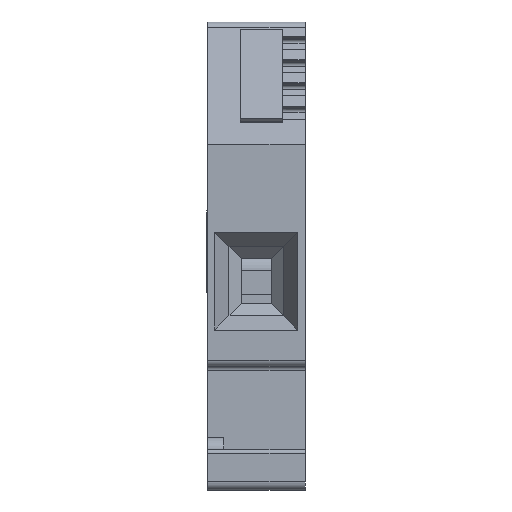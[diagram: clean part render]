
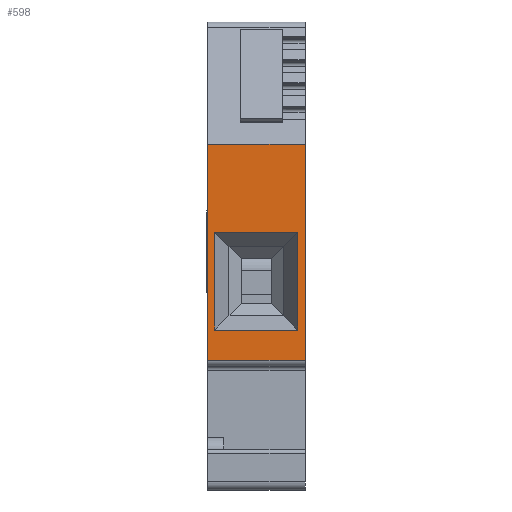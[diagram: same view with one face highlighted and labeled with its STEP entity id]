
A CAD part, front view. The second image highlights one B-rep face of the part: STEP entity #598.
In plain terms, the highlighted planar face has unit normal (0, -1, 0).
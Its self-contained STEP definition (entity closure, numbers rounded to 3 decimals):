
#598=ADVANCED_FACE('',(#15983,#15985),#15987,.T.);
#15983=FACE_BOUND('',#15984,.T.);
#15984=EDGE_LOOP('',(#28390,#28391,#28392,#28393));
#15985=FACE_BOUND('',#15986,.T.);
#15986=EDGE_LOOP('',(#28394,#28395,#28396,#28397));
#15987=PLANE('',#15988);
#15988=AXIS2_PLACEMENT_3D('',#15989,#15990,#15991);
#15989=CARTESIAN_POINT('',(0.,-23.,42.5));
#15990=DIRECTION('',(0.,-1.,0.));
#15991=DIRECTION('',(0.,0.,-1.));
#28390=ORIENTED_EDGE('',*,*,#37829,.T.);
#28391=ORIENTED_EDGE('',*,*,#37955,.T.);
#28392=ORIENTED_EDGE('',*,*,#37493,.F.);
#28393=ORIENTED_EDGE('',*,*,#37952,.F.);
#28394=ORIENTED_EDGE('',*,*,#37956,.T.);
#28395=ORIENTED_EDGE('',*,*,#37957,.T.);
#28396=ORIENTED_EDGE('',*,*,#37958,.T.);
#28397=ORIENTED_EDGE('',*,*,#37959,.T.);
#37493=EDGE_CURVE('',#42409,#42411,#42412,.T.);
#37829=EDGE_CURVE('',#43065,#43063,#43066,.T.);
#37952=EDGE_CURVE('',#43065,#42409,#43284,.T.);
#37955=EDGE_CURVE('',#43063,#42411,#43288,.T.);
#37956=EDGE_CURVE('',#43289,#43290,#43291,.F.);
#37957=EDGE_CURVE('',#43290,#43292,#43293,.F.);
#37958=EDGE_CURVE('',#43292,#43294,#43295,.F.);
#37959=EDGE_CURVE('',#43294,#43289,#43296,.F.);
#42409=VERTEX_POINT('',#50646);
#42411=VERTEX_POINT('',#50650);
#42412=LINE('',#50651,#50652);
#43063=VERTEX_POINT('',#52081);
#43065=VERTEX_POINT('',#52086);
#43066=LINE('',#52087,#52088);
#43284=LINE('',#52581,#52582);
#43288=LINE('',#52591,#52592);
#43289=VERTEX_POINT('',#52594);
#43290=VERTEX_POINT('',#52595);
#43291=LINE('',#52596,#52597);
#43292=VERTEX_POINT('',#52599);
#43293=LINE('',#52600,#52601);
#43294=VERTEX_POINT('',#52603);
#43295=LINE('',#52604,#52605);
#43296=LINE('',#52607,#52608);
#50646=CARTESIAN_POINT('',(12.,-23.,42.5));
#50650=CARTESIAN_POINT('',(12.,-23.,15.95));
#50651=CARTESIAN_POINT('',(12.,-23.,42.5));
#50652=VECTOR('',#50653,1.);
#50653=DIRECTION('',(0.,0.,-1.));
#52081=CARTESIAN_POINT('',(0.,-23.,15.95));
#52086=CARTESIAN_POINT('',(0.,-23.,42.5));
#52087=CARTESIAN_POINT('',(0.,-23.,42.5));
#52088=VECTOR('',#52089,1.);
#52089=DIRECTION('',(0.,0.,-1.));
#52581=CARTESIAN_POINT('',(0.,-23.,42.5));
#52582=VECTOR('',#52583,1.);
#52583=DIRECTION('',(1.,0.,0.));
#52591=CARTESIAN_POINT('',(0.,-23.,15.95));
#52592=VECTOR('',#52593,1.);
#52593=DIRECTION('',(1.,0.,0.));
#52594=CARTESIAN_POINT('',(11.1,-23.,19.655));
#52595=CARTESIAN_POINT('',(0.9,-23.,19.655));
#52596=CARTESIAN_POINT('',(0.9,-23.,19.655));
#52597=VECTOR('',#52598,1.);
#52598=DIRECTION('',(1.,0.,0.));
#52599=CARTESIAN_POINT('',(0.9,-23.,31.655));
#52600=CARTESIAN_POINT('',(0.9,-23.,31.655));
#52601=VECTOR('',#52602,1.);
#52602=DIRECTION('',(0.,0.,-1.));
#52603=CARTESIAN_POINT('',(11.1,-23.,31.655));
#52604=CARTESIAN_POINT('',(11.1,-23.,31.655));
#52605=VECTOR('',#52606,1.);
#52606=DIRECTION('',(-1.,0.,0.));
#52607=CARTESIAN_POINT('',(11.1,-23.,19.655));
#52608=VECTOR('',#52609,1.);
#52609=DIRECTION('',(0.,0.,1.));
